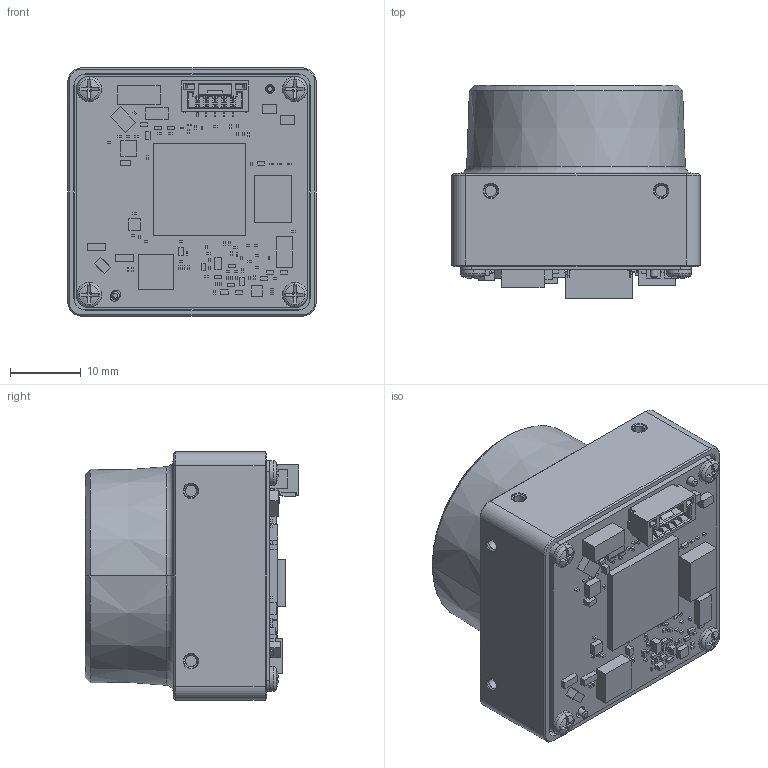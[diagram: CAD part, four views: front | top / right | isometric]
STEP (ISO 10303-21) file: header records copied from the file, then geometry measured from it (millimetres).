
FILE_DESCRIPTION((''),'2;1');
FILE_NAME('PRT0002','2024-02-22T14:36:02',('331929'),(''),'CREO PARAMETRIC BY PTC INC, 2020184','CREO PARAMETRIC BY PTC INC, 2020184','');
FILE_SCHEMA(('CONFIG_CONTROL_DESIGN','SHAPE_APPEARANCE_LAYERS_GROUPS'));
Products named in the file (1): PRT0002
Bounding box: 35 x 30.1 x 35 mm (x, y, z)
Volume: 17819.3 mm3; surface area: 12706.6 mm2
Topology: 102 solids, 143 shells, 1948 faces, 5028 edges, 3281 vertices
Faces by surface type: plane 1306, cylinder 445, cone 116, torus 39, sphere 24, bspline 18
Entity records: 93397 total; most frequent: CARTESIAN_POINT 16639, ORIENTED_EDGE 9870, DIRECTION 9819, PRESENTATION_STYLE_ASSIGNMENT 6967, STYLED_ITEM 5133, CURVE_STYLE 5000, EDGE_CURVE 5000, VECTOR 3551
